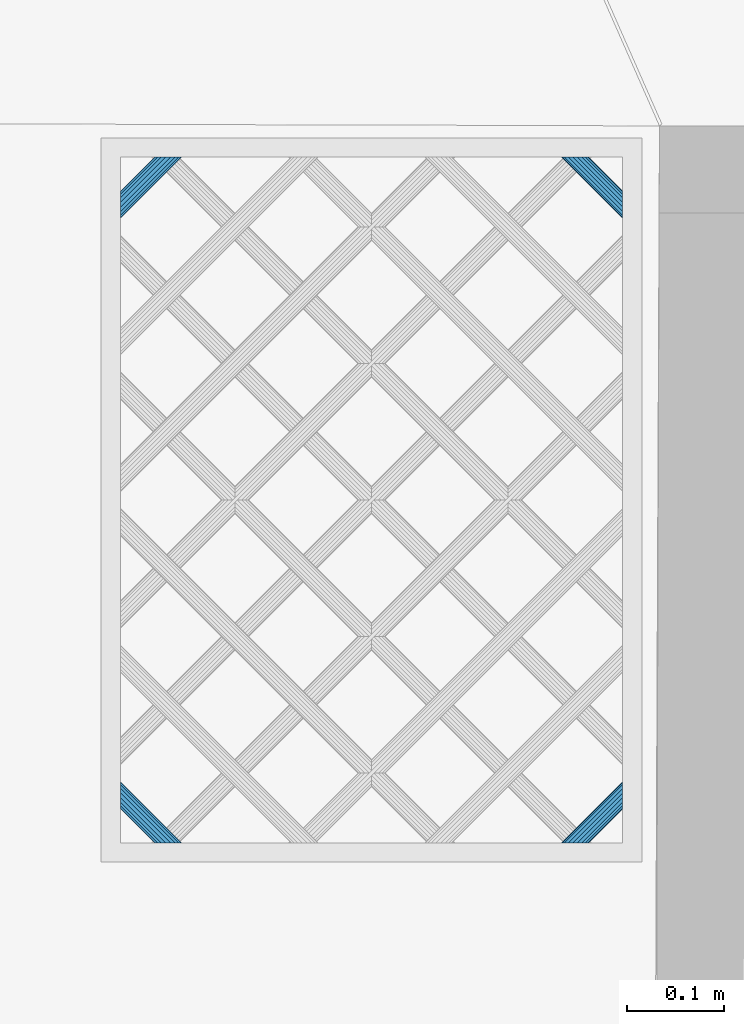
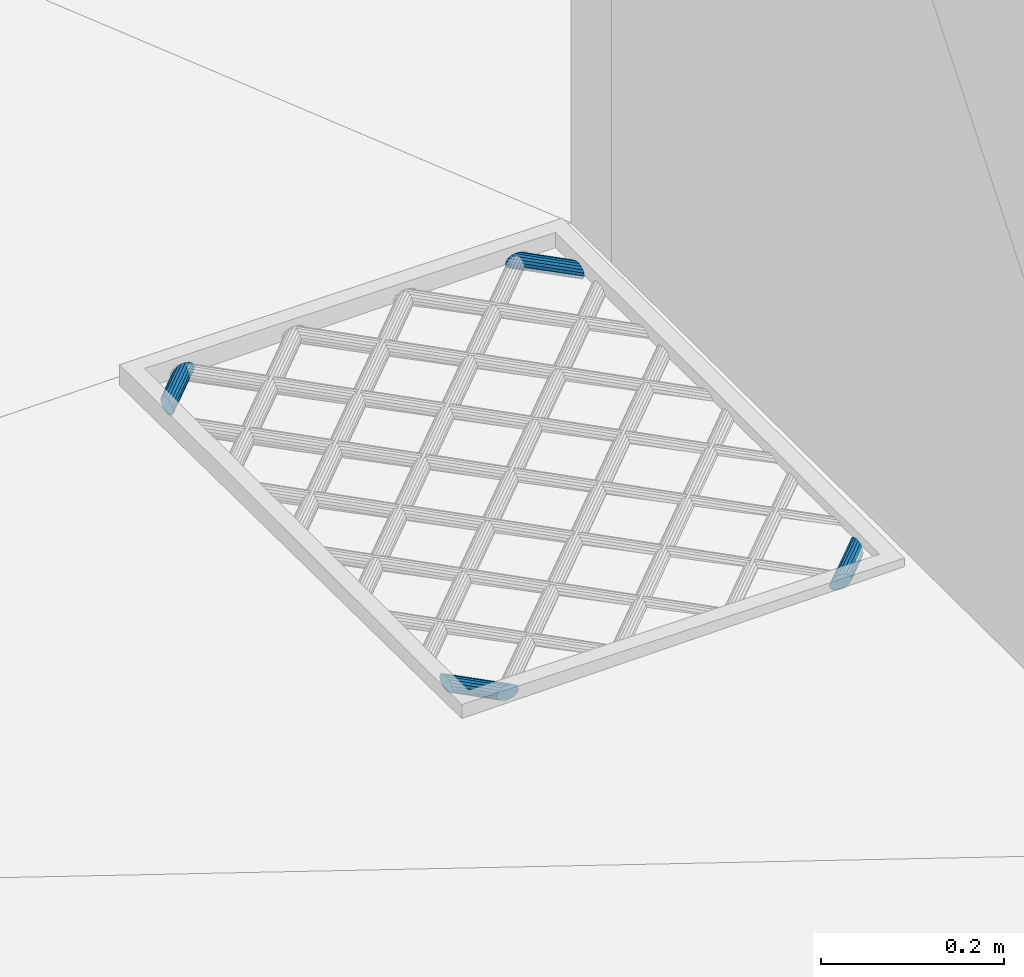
# One storey, part 84 of 133: 4 members, 1 element without a shape of its own.
"""IFC2X3 building model written with IfcOpenShell, lengths in centimetres."""

from ifc_helpers import new_model, entity, si_unit, converted_unit, direction, frame, origin, origin_with_axes, place, context, subcontext, project, spatial, faceted_brep, material, type_object, element, aggregate, save


model = new_model("IFC2X3")

# Units and contexts
model_context = context("Model", 3, precision=0.0001, world=origin(), true_north=direction((0.225632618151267, 0.974212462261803, 0.0)))
body_context = subcontext(model_context, "Body", "Model", "MODEL_VIEW")
ifc_project = project(units=[si_unit("LENGTHUNIT", "METRE", prefix="CENTI"), si_unit("AREAUNIT", "SQUARE_METRE", prefix="CENTI"), si_unit("VOLUMEUNIT", "CUBIC_METRE", prefix="CENTI"), converted_unit("PLANEANGLEUNIT", "DEGREE", entity("IfcRatioMeasure", 0.0174532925), si_unit("PLANEANGLEUNIT", "RADIAN"), dimensions=[0, 0, 0, 0, 0, 0, 0])], contexts=[model_context])

# Site, building, storey
site_placement = place(None, origin_with_axes())
site = spatial("IfcSite", under=ifc_project, at=site_placement, Name="Default Site", CompositionType="ELEMENT")
building_placement = place(site_placement, origin_with_axes())
building = spatial("IfcBuilding", under=site, at=building_placement, Name="Default Building", CompositionType="ELEMENT")
storey_placement = place(building_placement, frame((0.0, 0.0, -291.400371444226), z_axis=(0.0, 0.0, 1.0), x_axis=(1.0, 0.0, 0.0)))
storey = spatial("IfcBuildingStorey", under=building, at=storey_placement, Name="Rez-de-Jardin", CompositionType="ELEMENT", Elevation=-291.400371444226)

# Assembly, members
building_element_proxy_type = type_object("IfcBuildingElementProxyType", Name="Type Object", PredefinedType="NOTDEFINED")
assembly_placement = place(storey_placement, frame((-1322.94034957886, 694.801568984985, 108.0), z_axis=(0.0, 1.0, -2.38697950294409e-15), x_axis=(1.0, 0.0, 0.0)))
assembly = element("IfcElementAssembly", 1, at=assembly_placement, inside=storey, type_object=building_element_proxy_type, Name="Panneau 303645", ObjectType="Precast panel", PredefinedType="USERDEFINED")
ifc_material = material(Name="Aluminium satiné")
member_1_placement = place(assembly_placement, frame((8.2603834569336, 0.342020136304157, 73.0000019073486), z_axis=(1.16937634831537e-15, -1.43218776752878e-15, 1.0), x_axis=(0.632455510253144, -0.774596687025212, -1.84894641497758e-15)))
member_1 = element("IfcMember", 2, at=member_1_placement, material=ifc_material, Name="4294966982", context=body_context, shape_type="Brep", body=[
    faceted_brep([(-2.08166817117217e-15, -6.66133814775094e-14, 4.44089209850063e-14), (-0.388289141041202, -6.66133814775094e-14, 4.36909951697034e-14), (-0.799165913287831, -0.15024930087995, 4.29313060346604e-14), (-1.18307196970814, -0.432624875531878, 4.22214843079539e-14), (-1.49370326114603, -0.813068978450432, 4.164714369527e-14), (-1.69359292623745, -1.24569426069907, 4.12775584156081e-14), (-1.75863096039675, -1.67831921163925, 4.11573065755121e-14), (-1.68097311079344, -2.0587633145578, 4.1300891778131e-14), (-1.46998602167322, -2.34113928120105, 4.16909956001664e-14), (-1.15111778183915, -2.49138835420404, 4.22805658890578e-14), (-0.762828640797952, -2.49138835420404, 4.29984917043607e-14), (-0.351952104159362, -2.34113934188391, 4.3758180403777e-14), (0.0319544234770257, -2.05876319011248, 4.44680030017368e-14), (0.342585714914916, -1.67831908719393, 4.50423436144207e-14), (0.542474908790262, -1.2456943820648, 4.54119280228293e-14), (0.607513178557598, -0.813069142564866, 4.5532180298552e-14), (0.529855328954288, -0.432625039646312, 4.53885950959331e-14), (0.318868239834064, -0.150249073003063, 4.49984912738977e-14), (-3.69448637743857, -5.06558483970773, -6.34567141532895), (-3.42955871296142, -5.28189735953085, -6.26038312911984), (-3.19658521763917, -5.47211941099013, -6.01481199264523), (-3.02366596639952, -5.61330738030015, -5.63856363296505), (-2.93165753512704, -5.68843194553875, -5.17703294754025), (-2.93165753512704, -5.68843194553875, -4.68588471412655), (-3.02366596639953, -5.61330738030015, -4.22435402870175), (-3.19658521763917, -5.47211941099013, -3.84811162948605), (-3.42955871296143, -5.28189735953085, -3.60253453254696), (-3.69448637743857, -5.06558483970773, -3.51724624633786), (-3.95941404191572, -4.84927231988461, -3.60253453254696), (-4.19238753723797, -4.65905026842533, -3.84811162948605), (-4.36530678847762, -4.51786229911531, -4.22435402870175), (-4.4573152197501, -4.44273773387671, -4.68588471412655), (-4.4573152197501, -4.44273773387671, -5.17703294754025), (-4.36530678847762, -4.51786229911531, -5.63856363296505), (-4.19238753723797, -4.65905026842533, -6.01481199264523), (-3.95941404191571, -4.84927231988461, -6.26038312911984), (0.318868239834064, -0.150249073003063, 4.44089209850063e-14), (0.529855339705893, -0.432625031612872, -1.30225434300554e-08), (-3.42955855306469, -5.2818972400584, -6.26038332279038), (-3.6944865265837, -5.06558495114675, -6.34567123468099), (0.529855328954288, -0.432625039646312, 4.44089209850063e-14), (0.607513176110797, -0.813069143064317, 1.93441038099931e-09), (-3.19658716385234, -5.47211980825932, -6.01481045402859), (-3.42955853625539, -5.28189732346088, -6.26038326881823), (0.607513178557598, -0.813069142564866, 4.44089209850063e-14), (0.542475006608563, -1.24569439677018, -5.04749368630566e-08), (-3.02366571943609, -5.61330741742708, -5.63856376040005), (-3.1965868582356, -5.47211916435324, -6.0148111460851), (0.542474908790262, -1.2456943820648, 4.44089209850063e-14), (0.342585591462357, -1.67831903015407, 3.38954099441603e-08), (-2.93165757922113, -5.68843192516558, -5.17703293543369), (-3.02366588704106, -5.61330741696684, -5.63856365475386), (0.342585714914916, -1.67831908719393, 4.44089209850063e-14), (0.0319544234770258, -2.05876319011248, 4.44089209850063e-14), (-2.93165753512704, -5.68843194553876, -4.68588471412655), (-2.93165753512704, -5.68843194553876, -5.17703294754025), (0.0319544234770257, -2.05876319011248, 4.44089209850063e-14), (-0.351952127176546, -2.34113931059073, -9.68220735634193e-09), (-3.02366552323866, -5.61330798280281, -4.22435384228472), (-2.93165717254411, -5.68843243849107, -4.68588456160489), (-0.351952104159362, -2.34113934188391, 4.44089209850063e-14), (-0.762828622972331, -2.49138840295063, 2.64850747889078e-08), (-3.19658457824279, -5.47212115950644, -3.84811067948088), (-3.02366550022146, -5.61330865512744, -4.22435333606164), (-0.762828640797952, -2.49138835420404, 4.44089209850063e-14), (-1.15111778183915, -2.4913883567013, 1.93441027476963e-09), (-3.42955871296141, -5.28189880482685, -3.60253341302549), (-3.19658521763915, -5.47212157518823, -3.84810995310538), (-1.15111778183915, -2.49138835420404, 4.44089209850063e-14), (-1.46998601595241, -2.34113926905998, -1.30225444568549e-08), (-3.69448684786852, -5.06558583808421, -3.51724517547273), (-3.42955934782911, -5.28189870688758, -3.60253308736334), (-1.46998602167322, -2.34113928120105, 4.44089209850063e-14), (-1.68097312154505, -2.05876332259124, 1.30226325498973e-08), (-3.95941524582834, -4.84927321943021, -3.60253307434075), (-3.69448727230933, -5.06558550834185, -3.51724516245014), (-1.68097311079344, -2.0587633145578, 4.44089209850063e-14), (-1.75863095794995, -1.67831921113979, -1.93432166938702e-09), (-4.19238965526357, -4.6590507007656, -3.84810995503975), (-3.95941545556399, -4.84927260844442, -3.60253341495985), (-1.75863096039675, -1.67831921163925, 4.44089209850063e-14), (-1.69359287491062, -1.24569426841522, -2.6484986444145e-08), (-4.36530807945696, -4.51786210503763, -4.22435336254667), (-4.19238932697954, -4.6590499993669, -3.84811070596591), (-1.69359292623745, -1.24569426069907, 4.44089209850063e-14), (-1.49370329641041, -0.813068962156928, 9.68229617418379e-09), (-4.45731581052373, -4.44273746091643, -4.68588455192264), (-4.36530750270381, -4.51786196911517, -4.22435383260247), (-1.49370326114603, -0.813068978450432, 4.44089209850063e-14), (-1.18307196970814, -0.432624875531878, 4.44089209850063e-14), (-0.799165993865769, -0.150249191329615, -3.38953211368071e-08), (-4.36530692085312, -4.51786211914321, -5.63856368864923), (-4.45731527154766, -4.44273766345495, -5.17703296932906), (-0.799165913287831, -0.15024930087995, 4.44089209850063e-14), (-0.388289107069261, -9.29009585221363e-08, 5.04750258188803e-08), (-4.19238693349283, -4.65905191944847, -6.01481109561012), (-4.36530684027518, -4.51786215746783, -5.63856370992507), (-0.388289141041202, -6.66133814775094e-14, 4.44089209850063e-14), (-2.10736565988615e-15, 2.49718884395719e-09, -1.93432137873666e-09), (-3.95941404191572, -4.84927213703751, -6.26038327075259), (-4.19238753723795, -4.65905225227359, -6.01481045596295), (0.318868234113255, -0.15024908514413, 1.30226327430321e-08), (-3.69448646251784, -5.06558502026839, -6.3456712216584), (-3.95941396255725, -4.84927215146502, -6.26038330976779)], [[[0, 1, 2, 3, 4, 5, 6, 7, 8, 9, 10, 11, 12, 13, 14, 15, 16, 17]], [[18, 19, 20, 21, 22, 23, 24, 25, 26, 27, 28, 29, 30, 31, 32, 33, 34, 35]], [[36, 37, 38, 39]], [[40, 41, 42, 43]], [[44, 45, 46, 47]], [[48, 49, 50, 51]], [[52, 53, 54, 55]], [[56, 57, 58, 59]], [[60, 61, 62, 63]], [[64, 65, 66, 67]], [[68, 69, 70, 71]], [[72, 73, 74, 75]], [[76, 77, 78, 79]], [[80, 81, 82, 83]], [[84, 85, 86, 87]], [[88, 89, 32, 31]], [[89, 90, 91, 92]], [[93, 94, 95, 96]], [[97, 98, 99, 100]], [[0, 101, 102, 103]]]),
])
member_2_placement = place(assembly_placement, frame((54.0000021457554, 0.342020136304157, 5.60253150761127), z_axis=(0.999999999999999, 0.0, 0.0), x_axis=(0.0, -0.774596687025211, -0.632455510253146)))
member_2 = element("IfcMember", 3, at=member_2_placement, material=ifc_material, Name="4294966974", context=body_context, shape_type="Brep", body=[
    faceted_brep([(2.35922392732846e-14, -5.06539254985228e-14, 1.99840144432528e-13), (-0.388289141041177, -4.9960036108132e-14, 1.99840144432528e-13), (-0.799165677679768, -0.15024901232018, 1.99840144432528e-13), (-1.18307220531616, -0.432625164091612, 1.99840144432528e-13), (-1.49370349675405, -0.813069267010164, 1.99840144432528e-13), (-1.69359269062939, -1.24569397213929, 1.99840144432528e-13), (-1.75863096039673, -1.67831921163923, 1.99840144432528e-13), (-1.68097311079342, -2.05876331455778, 1.99840144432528e-13), (-1.4699860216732, -2.34113928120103, 1.99840144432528e-13), (-1.15111778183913, -2.49138835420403, 1.99840144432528e-13), (-0.762828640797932, -2.49138835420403, 1.99840144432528e-13), (-0.351951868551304, -2.34113905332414, 1.99840144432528e-13), (0.0319541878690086, -2.05876347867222, 1.99840144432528e-13), (0.342585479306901, -1.67831937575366, 1.99840144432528e-13), (0.542475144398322, -1.24569409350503, 1.99840144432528e-13), (0.607513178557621, -0.813069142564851, 1.99840144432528e-13), (0.529855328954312, -0.432625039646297, 1.99840144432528e-13), (0.318868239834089, -0.150249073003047, 1.99840144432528e-13), (2.54336859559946, 2.57419648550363, -3.51724624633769), (2.8082962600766, 2.35788396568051, -3.6025345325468), (3.04126975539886, 2.16766191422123, -3.84811162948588), (3.2141890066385, 2.0264739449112, -4.22435402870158), (3.30619743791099, 1.9513493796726, -4.68588471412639), (3.30619743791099, 1.9513493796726, -5.17703592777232), (3.2141890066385, 2.0264739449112, -5.63856661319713), (3.04126975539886, 2.16766191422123, -6.01480901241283), (2.8082962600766, 2.35788396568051, -6.26038610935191), (2.54336859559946, 2.57419648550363, -6.34567439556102), (2.27844093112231, 2.79050900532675, -6.26038610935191), (2.04546743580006, 2.98073105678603, -6.01480901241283), (1.87254818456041, 3.12191902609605, -5.63856661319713), (1.78053975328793, 3.19704359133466, -5.17703592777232), (1.78053975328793, 3.19704359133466, -4.68588471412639), (1.87254818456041, 3.12191902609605, -4.22435402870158), (2.04546743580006, 2.98073105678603, -3.84811162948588), (2.27844093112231, 2.79050900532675, -3.6025345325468), (0.529855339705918, -0.432625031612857, 1.30227881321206e-08), (2.80829746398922, 2.3578848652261, -3.60253307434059), (2.54336949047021, 2.57419715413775, -3.51724516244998), (0.60751317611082, -0.813069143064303, -1.93416621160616e-09), (3.04127187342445, 2.1676623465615, -3.84810995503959), (2.80829767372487, 2.35788425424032, -3.60253341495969), (0.542475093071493, -1.24569408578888, -2.64848307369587e-08), (3.21419029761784, 2.02647375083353, -4.22435336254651), (3.04127154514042, 2.1676616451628, -3.84811070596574), (0.342585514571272, -1.67831939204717, 9.68245152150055e-09), (3.30619802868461, 1.95134910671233, -4.68588455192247), (3.21418972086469, 2.02647361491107, -4.2243538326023), (0.031954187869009, -2.05876347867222, 1.99840144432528e-13), (-0.351951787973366, -2.34113916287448, -3.38951659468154e-08), (3.21418872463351, 2.02647432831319, -5.63856649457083), (3.30619707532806, 1.95134987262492, -5.17703577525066), (-0.762828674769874, -2.49138826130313, 5.04751816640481e-08), (3.04126956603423, 2.16766243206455, -6.01480873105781), (3.21418864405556, 2.02647493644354, -5.63856607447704), (-1.15111778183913, -2.49138835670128, -1.93416623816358e-09), (2.80829626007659, 2.35788522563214, -6.26038513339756), (3.04126975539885, 2.16766245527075, -6.01480859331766), (-1.46998601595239, -2.34113926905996, 1.30227882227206e-08), (2.5433693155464, 2.57419801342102, -6.34567275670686), (2.80829681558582, 2.35788514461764, -6.26038484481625), (-1.68097312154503, -2.05876332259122, -1.30223890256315e-08), (2.27844196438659, 2.79050977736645, -6.26038485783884), (2.54336993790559, 2.5741974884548, -6.34567276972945), (-1.75863095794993, -1.67831921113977, 1.93456591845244e-09), (2.04546796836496, 2.98073116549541, -6.01480859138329), (2.27844216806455, 2.79050925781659, -6.26038513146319), (-1.6935927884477, -1.24569395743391, -5.04747812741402e-08), (1.87254913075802, 3.12191888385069, -5.63856612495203), (2.04546788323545, 2.98073098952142, -6.01480878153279), (-1.49370337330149, -0.813069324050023, 3.38955654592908e-08), (1.78054043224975, 3.19704327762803, -5.1770357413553), (1.87254874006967, 3.12191876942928, -5.63856646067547), (-1.18307220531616, -0.432625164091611, 1.99840144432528e-13), (-0.799165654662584, -0.150249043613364, -9.68205175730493e-09), (1.87254774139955, 3.12191962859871, -4.22435384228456), (1.780539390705, 3.19704408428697, -4.68588456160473), (-0.388289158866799, 4.87465346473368e-08, 2.64852302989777e-08), (2.04546679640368, 2.98073280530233, -3.84811067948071), (1.87254771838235, 3.12192030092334, -4.22435333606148), (2.35665417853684e-14, 2.49720498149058e-09, 1.93456576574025e-09), (2.2784409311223, 2.79051045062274, -3.60253341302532), (2.04546743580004, 2.98073322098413, -3.84810995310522), (0.31886823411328, -0.150249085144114, -1.30223884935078e-08), (2.54336906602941, 2.57419748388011, -3.51724517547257), (2.27844156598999, 2.79051035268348, -3.60253308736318)], [[[0, 1, 2, 3, 4, 5, 6, 7, 8, 9, 10, 11, 12, 13, 14, 15, 16, 17]], [[18, 19, 20, 21, 22, 23, 24, 25, 26, 27, 28, 29, 30, 31, 32, 33, 34, 35]], [[17, 36, 37, 38]], [[16, 39, 40, 41]], [[15, 42, 43, 44]], [[14, 45, 46, 47]], [[13, 48, 23, 22]], [[12, 49, 50, 51]], [[11, 52, 53, 54]], [[10, 55, 56, 57]], [[9, 58, 59, 60]], [[8, 61, 62, 63]], [[7, 64, 65, 66]], [[6, 67, 68, 69]], [[5, 70, 71, 72]], [[4, 73, 32, 31]], [[3, 74, 75, 76]], [[2, 77, 78, 79]], [[1, 80, 81, 82]], [[0, 83, 84, 85]]]),
])
member_3_placement = place(assembly_placement, frame((54.0000021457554, 0.342020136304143, 66.7396187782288), z_axis=(0.999999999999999, 0.0, 0.0), x_axis=(0.0, -0.774602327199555, -0.632448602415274)))
member_3 = element("IfcMember", 4, at=member_3_placement, material=ifc_material, Name="4294966973", context=body_context, shape_type="Brep", body=[
    faceted_brep([(0.0, 1.11022302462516e-14, 1.99840144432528e-13), (-0.388286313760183, 1.11022302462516e-14, 1.99840144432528e-13), (-0.799164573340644, -0.150256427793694, 1.99840144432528e-13), (-1.1830681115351, -0.432635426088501, 1.99840144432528e-13), (-1.49369412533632, -0.813079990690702, 1.99840144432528e-13), (-1.69357946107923, -1.24570647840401, 1.99840144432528e-13), (-1.75861293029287, -1.6783311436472, 1.99840144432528e-13), (-1.68095263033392, -2.05877570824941, 1.99840144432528e-13), (-1.46996349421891, -2.34115037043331, 1.99840144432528e-13), (-1.15109344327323, -2.49139602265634, 1.99840144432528e-13), (-0.762803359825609, -2.49139140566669, 1.99840144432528e-13), (-0.351928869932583, -2.34113959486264, 1.99840144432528e-13), (0.0319746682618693, -2.05876059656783, 1.99840144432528e-13), (0.342600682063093, -1.67831603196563, 1.99840144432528e-13), (0.542486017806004, -1.24568954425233, 1.99840144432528e-13), (0.607523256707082, -0.813060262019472, 1.99840144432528e-13), (0.529859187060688, -0.432620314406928, 1.99840144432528e-13), (0.318870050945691, -0.150245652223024, 1.99840144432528e-13), (-3.69444096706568, -5.06561749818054, -6.34567439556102), (-3.42951137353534, -5.28192765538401, -6.26038610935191), (-3.19653618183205, -5.47214762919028, -6.01480901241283), (-3.02361567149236, -5.61333405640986, -5.63856661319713), (-2.93160657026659, -5.6884578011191, -5.17703592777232), (-2.93160657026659, -5.6884578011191, -4.68588471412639), (-3.02361567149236, -5.61333405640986, -4.22435402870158), (-3.19653618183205, -5.47214762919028, -3.84811162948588), (-3.42951137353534, -5.28192765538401, -3.6025345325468), (-3.69444096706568, -5.06561749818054, -3.51724624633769), (-3.95937056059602, -4.84930734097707, -3.6025345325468), (-4.19234575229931, -4.6590873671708, -3.84811162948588), (-4.365266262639, -4.51790093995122, -4.22435402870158), (-4.45727536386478, -4.44277719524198, -4.68588471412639), (-4.45727536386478, -4.44277719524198, -5.17703592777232), (-4.365266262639, -4.51790093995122, -5.63856661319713), (-4.19234575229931, -4.6590873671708, -6.01480901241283), (-3.95937056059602, -4.84930734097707, -6.26038610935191), (0.529859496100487, -0.432620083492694, -3.74318292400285e-07), (-3.4295122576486, -5.28192831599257, -6.26038503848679), (-3.69444216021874, -5.06561838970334, -6.3456729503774), (0.607521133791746, -0.813060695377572, 1.67831523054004e-06), (-3.19653689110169, -5.47214777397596, -6.01480845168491), (-3.42951278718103, -5.28192794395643, -6.2603849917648), (0.542487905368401, -1.24568982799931, -9.73994924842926e-07), (-3.0236149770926, -5.61333416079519, -5.63856697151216), (-3.1965349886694, -5.47214780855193, -6.01480962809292), (0.342600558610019, -1.67831597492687, 3.38955670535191e-08), (-2.93160732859, -5.68845745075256, -5.17703571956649), (-3.02361630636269, -5.61333376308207, -5.63856643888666), (-2.93160657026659, -5.68845780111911, -4.68588471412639), (-2.93160657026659, -5.68845780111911, -5.17703592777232), (-0.35192878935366, -2.34113970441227, 3.38955685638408e-08), (-3.02361559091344, -5.61333416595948, -4.22435399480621), (-0.762803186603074, -2.49139187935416, 2.57365265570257e-07), (-3.19653600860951, -5.47214810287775, -3.84811137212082), (-1.15109344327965, -2.49139530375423, -5.56858990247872e-07), (-3.42951137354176, -5.2819269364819, -3.60253508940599), (-3.19653618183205, -5.47214762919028, -3.84811162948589), (-1.4699633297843, -2.34115002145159, -3.74318293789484e-07), (-3.69444080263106, -5.06561714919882, -3.51724662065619), (-1.68095293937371, -2.05877593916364, 3.74318689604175e-07), (-3.95937086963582, -4.8493075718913, -3.60253415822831), (-1.75861363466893, -1.67833128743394, 5.56859391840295e-07), (-4.19234645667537, -4.65908751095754, -3.84811107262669), (-3.95937056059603, -4.84930734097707, -3.6025345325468), (-1.69357896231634, -1.24570655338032, -2.57364867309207e-07), (-4.36526576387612, -4.51790101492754, -4.22435428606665), (-4.19234575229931, -4.6590873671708, -3.84811162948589), (-1.49369400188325, -0.813080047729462, -3.38951673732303e-08), (-4.4572752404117, -4.44277725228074, -4.68588474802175), (-4.36526626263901, -4.51790093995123, -4.22435402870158), (-0.799164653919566, -0.150256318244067, -3.38951689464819e-08), (-4.36526592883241, -4.51790139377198, -5.63856647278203), (-4.45727494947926, -4.44277775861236, -5.17703575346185), (-0.388285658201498, -1.7926647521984e-06, 9.73995323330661e-07), (-4.19234551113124, -4.65908802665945, -6.01480865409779), (-4.3652658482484, -4.51790207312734, -5.63856599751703), (-1.93447717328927e-11, 2.1666953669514e-06, -1.67831483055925e-06), (-3.95937056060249, -4.84930661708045, -6.26038667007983), (-4.1923457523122, -4.65908592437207, -6.01481012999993), (0.318869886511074, -0.150246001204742, 3.74318694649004e-07), (-3.69444176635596, -5.06561919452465, -6.3456725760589), (-3.95937119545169, -4.84930868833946, -6.26038466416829)], [[[0, 1, 2, 3, 4, 5, 6, 7, 8, 9, 10, 11, 12, 13, 14, 15, 16, 17]], [[18, 19, 20, 21, 22, 23, 24, 25, 26, 27, 28, 29, 30, 31, 32, 33, 34, 35]], [[17, 36, 37, 38]], [[16, 39, 40, 41]], [[15, 42, 43, 44]], [[14, 45, 46, 47]], [[13, 12, 48, 49]], [[12, 50, 51, 48]], [[11, 52, 53, 24]], [[10, 54, 55, 56]], [[9, 57, 58, 26]], [[8, 59, 60, 27]], [[7, 61, 62, 63]], [[6, 64, 65, 66]], [[5, 67, 68, 69]], [[4, 3, 32, 31]], [[3, 70, 71, 72]], [[2, 73, 74, 75]], [[1, 76, 77, 78]], [[0, 79, 80, 81]]]),
])
member_4_placement = place(assembly_placement, frame((5.60253150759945, 0.342020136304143, 1.99999995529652), z_axis=(1.16937634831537e-15, 1.43218776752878e-15, -1.0), x_axis=(-0.632455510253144, -0.774596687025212, -1.84894641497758e-15)))
member_4 = element("IfcMember", 5, at=member_4_placement, material=ifc_material, Name="4294966965", context=body_context, shape_type="Brep", body=[
    faceted_brep([(-5.89805981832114e-14, 1.17267306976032e-13, 5.89805981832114e-15), (-0.388289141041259, 1.17267306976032e-13, 6.615985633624e-15), (-0.79916567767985, -0.150249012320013, 7.37567433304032e-15), (-1.18307220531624, -0.432625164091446, 8.08549693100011e-15), (-1.49370349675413, -0.81306926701, 8.65983754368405e-15), (-1.69359269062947, -1.24569397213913, 9.02942195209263e-15), (-1.75863096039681, -1.67831921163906, 9.14967422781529e-15), (-1.6809731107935, -2.05876331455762, 9.00608902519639e-15), (-1.46998602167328, -2.34113928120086, 8.61598520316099e-15), (-1.15111778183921, -2.49138835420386, 8.02641491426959e-15), (-0.762828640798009, -2.49138835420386, 7.30848909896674e-15), (-0.35195186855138, -2.34113905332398, 6.54879996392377e-15), (0.0319541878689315, -2.05876347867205, 5.83897823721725e-15), (0.342585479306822, -1.6783193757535, 5.26463762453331e-15), (0.542475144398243, -1.24569409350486, 4.89505234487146e-15), (0.607513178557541, -0.813069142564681, 4.77480050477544e-15), (0.529855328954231, -0.432625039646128, 4.91838570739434e-15), (0.318868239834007, -0.150249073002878, 5.30848952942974e-15), (2.54336859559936, 2.5741964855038, -3.51724401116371), (2.80829626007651, 2.35788396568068, -3.60253155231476), (3.04126975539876, 2.1676619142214, -3.84810715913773), (3.21418900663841, 2.02647394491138, -4.22435067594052), (3.30619743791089, 1.95134937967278, -4.68588210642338), (3.30619743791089, 1.95134937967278, -5.17703332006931), (3.21418900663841, 2.02647394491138, -5.63856400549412), (3.04126975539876, 2.1676619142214, -6.01480789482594), (2.8082962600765, 2.35788396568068, -6.2603835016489), (2.54336859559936, 2.5741964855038, -6.34567104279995), (2.27844093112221, 2.79050900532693, -6.2603835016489), (2.04546743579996, 2.9807310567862, -6.01480789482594), (1.87254818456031, 3.12191902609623, -5.63856400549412), (1.78053975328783, 3.19704359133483, -5.17703332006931), (1.78053975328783, 3.19704359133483, -4.68588210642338), (1.87254818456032, 3.12191902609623, -4.22435067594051), (2.04546743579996, 2.9807310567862, -3.84810715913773), (2.27844093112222, 2.79050900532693, -3.60253155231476), (0.318868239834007, -0.150249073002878, 5.55111512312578e-15), (0.529855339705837, -0.432625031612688, 1.30225935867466e-08), (2.80829627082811, 2.35788397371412, -3.60253153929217), (0.529855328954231, -0.432625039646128, 5.20417042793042e-15), (0.60751317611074, -0.813069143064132, -1.93436108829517e-09), (3.04126975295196, 2.16766191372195, -3.84810716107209), (0.607513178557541, -0.813069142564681, 4.85722573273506e-15), (0.542475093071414, -1.24569408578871, -2.64850258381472e-08), (3.21418895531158, 2.02647395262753, -4.22435070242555), (0.542475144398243, -1.24569409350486, 4.85722573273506e-15), (0.342585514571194, -1.678319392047, 9.68225731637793e-09), (3.30619747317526, 1.95134936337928, -4.68588209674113), (0.342585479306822, -1.6783193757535, 5.55111512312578e-15), (0.0319541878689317, -2.05876347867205, 5.89805981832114e-15), (0.0319541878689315, -2.05876347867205, 5.89805981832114e-15), (-0.351951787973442, -2.34113916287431, -3.38953590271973e-08), (3.21418908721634, 2.02647383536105, -5.63856403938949), (-0.35195186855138, -2.34113905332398, 6.59194920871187e-15), (-0.762828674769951, -2.49138826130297, 5.04749884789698e-08), (3.04126972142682, 2.1676620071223, -6.01480784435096), (-0.762828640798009, -2.49138835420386, 7.28583859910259e-15), (-1.15111778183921, -2.49138835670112, -1.9343579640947e-09), (2.8082962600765, 2.35788396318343, -6.26038350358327), (3.04126975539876, 2.16766191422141, -6.01480789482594), (-1.15111778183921, -2.49138835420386, 8.32667268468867e-15), (-1.46998601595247, -2.3411392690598, 1.30225970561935e-08), (2.54336860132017, 2.57419649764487, -6.34567102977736), (-1.46998602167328, -2.34113928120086, 8.67361737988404e-15), (-1.68097312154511, -2.05876332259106, -1.30225791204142e-08), (2.27844092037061, 2.79050899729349, -6.26038351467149), (-1.6809731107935, -2.05876331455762, 9.0205620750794e-15), (-1.75863095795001, -1.67831921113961, 1.93437523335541e-09), (2.04546743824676, 2.98073105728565, -6.01480789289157), (-1.75863096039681, -1.67831921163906, 9.36750677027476e-15), (-1.69359278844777, -1.24569395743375, -5.04749719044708e-08), (1.87254808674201, 3.12191904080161, -5.6385640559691), (-1.69359269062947, -1.24569397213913, 9.36750677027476e-15), (-1.49370337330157, -0.813069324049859, 3.38953742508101e-08), (1.78053987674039, 3.19704353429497, -5.17703328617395), (-1.49370349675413, -0.81306926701, 8.67361737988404e-15), (-1.18307220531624, -0.432625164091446, 8.32667268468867e-15), (-0.799165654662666, -0.150249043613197, -9.68224403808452e-09), (1.8725482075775, 3.12191899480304, -4.22435068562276), (-0.79916567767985, -0.150249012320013, 7.63278329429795e-15), (-0.388289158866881, 4.87467021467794e-08, 2.64850375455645e-08), (2.04546741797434, 2.98073110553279, -3.84810713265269), (1.87254818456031, 3.12191902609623, -4.22435067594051), (-0.388289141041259, 1.17267306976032e-13, 6.93889390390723e-15), (-5.90062956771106e-14, 2.49737322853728e-09, 1.93437207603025e-09), (2.27844093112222, 2.79050900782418, -3.60253155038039), (2.04546743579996, 2.9807310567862, -3.84810715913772), (0.318868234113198, -0.150249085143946, -1.30225832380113e-08), (2.54336858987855, 2.57419647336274, -3.5172440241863)], [[[0, 1, 2, 3, 4, 5, 6, 7, 8, 9, 10, 11, 12, 13, 14, 15, 16, 17]], [[18, 19, 20, 21, 22, 23, 24, 25, 26, 27, 28, 29, 30, 31, 32, 33, 34, 35]], [[36, 37, 38, 18]], [[39, 40, 41, 19]], [[42, 43, 44, 20]], [[45, 46, 47, 21]], [[48, 49, 23, 22]], [[50, 51, 52, 23]], [[53, 54, 55, 24]], [[56, 57, 58, 59]], [[60, 61, 62, 26]], [[63, 64, 65, 27]], [[66, 67, 68, 28]], [[69, 70, 71, 29]], [[72, 73, 74, 30]], [[75, 76, 32, 31]], [[76, 77, 78, 32]], [[79, 80, 81, 82]], [[83, 84, 85, 86]], [[0, 87, 88, 35]]]),
])
aggregate(assembly, [member_1, member_2, member_3, member_4])

save(model, "model.ifc")
